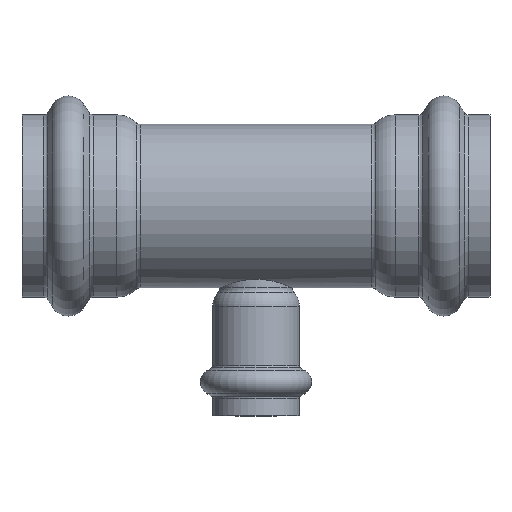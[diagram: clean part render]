
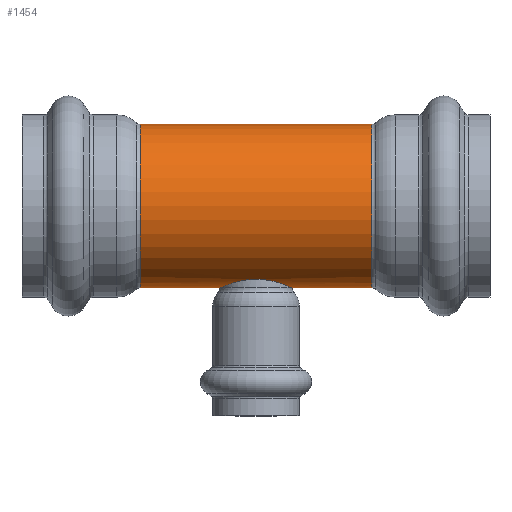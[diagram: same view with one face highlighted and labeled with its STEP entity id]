
A CAD part, top view. The second image highlights one B-rep face of the part: STEP entity #1454.
In plain terms, the highlighted cylindrical face has radius 24.13 mm (diameter 48.26 mm), a full revolution.
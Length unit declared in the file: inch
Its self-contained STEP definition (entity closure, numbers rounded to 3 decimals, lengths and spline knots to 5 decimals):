
#70=LINE('',#2739,#99);
#71=LINE('',#2740,#100);
#99=VECTOR('',#2112,0.95);
#100=VECTOR('',#2113,0.95);
#239=CIRCLE('',#1656,0.95);
#240=CIRCLE('',#1657,0.95);
#241=CIRCLE('',#1658,0.95);
#242=CIRCLE('',#1660,0.95);
#243=CIRCLE('',#1661,0.95);
#244=CIRCLE('',#1662,0.95);
#379=FACE_OUTER_BOUND('',#445,.T.);
#445=EDGE_LOOP('',(#1167,#1168,#1169,#1170,#1171,#1172,#1173,#1174,#1175,
#1176,#1177,#1178,#1179,#1180,#1181,#1182));
#468=B_SPLINE_CURVE_WITH_KNOTS('',3,(#2333,#2334,#2335,#2336,#2337,#2338,
#2339,#2340),.UNSPECIFIED.,.F.,.F.,(4,2,2,4),(0.21525,0.25618,
0.33964,0.43035),.UNSPECIFIED.);
#469=B_SPLINE_CURVE_WITH_KNOTS('',3,(#2342,#2343,#2344,#2345,#2346,#2347),
 .UNSPECIFIED.,.F.,.F.,(4,2,4),(0.,0.14258,0.21525),
 .UNSPECIFIED.);
#470=B_SPLINE_CURVE_WITH_KNOTS('',3,(#2351,#2352,#2353,#2354,#2355,#2356,
#2357,#2358),.UNSPECIFIED.,.F.,.F.,(4,2,2,4),(0.21525,0.25618,
0.33964,0.43035),.UNSPECIFIED.);
#471=B_SPLINE_CURVE_WITH_KNOTS('',3,(#2360,#2361,#2362,#2363,#2364,#2365),
 .UNSPECIFIED.,.F.,.F.,(4,2,4),(0.,0.14258,0.21525),
 .UNSPECIFIED.);
#473=B_SPLINE_CURVE_WITH_KNOTS('',3,(#2387,#2388,#2389,#2390,#2391,#2392,
#2393,#2394,#2395,#2396,#2397,#2398,#2399,#2400,#2401,#2402,#2403,#2404),
 .UNSPECIFIED.,.F.,.F.,(4,2,2,2,2,2,2,2,4),(1.84199,2.04003,
2.44778,2.85617,3.26456,3.67295,4.08134,
4.48909,4.68712),.UNSPECIFIED.);
#474=B_SPLINE_CURVE_WITH_KNOTS('',3,(#2406,#2407,#2408,#2409,#2410,#2411,
#2412,#2413,#2414,#2415,#2416,#2417,#2418,#2419,#2420,#2421,#2422,#2423,
#2424),.UNSPECIFIED.,.F.,.F.,(4,2,2,2,3,2,2,2,4),(5.10655,5.30458,
5.71233,6.12072,6.52911,6.9375,7.34589,
7.75364,7.95168),.UNSPECIFIED.);
#485=VERTEX_POINT('',#2330);
#486=VERTEX_POINT('',#2332);
#487=VERTEX_POINT('',#2341);
#488=VERTEX_POINT('',#2348);
#489=VERTEX_POINT('',#2350);
#490=VERTEX_POINT('',#2359);
#588=VERTEX_POINT('',#2726);
#589=VERTEX_POINT('',#2728);
#590=VERTEX_POINT('',#2730);
#591=VERTEX_POINT('',#2734);
#592=VERTEX_POINT('',#2735);
#593=VERTEX_POINT('',#2737);
#649=EDGE_CURVE('',#486,#485,#468,.T.);
#650=EDGE_CURVE('',#487,#486,#469,.T.);
#652=EDGE_CURVE('',#489,#488,#470,.T.);
#653=EDGE_CURVE('',#490,#489,#471,.T.);
#663=EDGE_CURVE('',#485,#490,#473,.T.);
#664=EDGE_CURVE('',#488,#487,#474,.T.);
#795=EDGE_CURVE('',#589,#588,#239,.T.);
#796=EDGE_CURVE('',#590,#589,#240,.T.);
#797=EDGE_CURVE('',#588,#590,#241,.T.);
#798=EDGE_CURVE('',#591,#592,#242,.T.);
#799=EDGE_CURVE('',#593,#591,#243,.T.);
#800=EDGE_CURVE('',#593,#486,#70,.T.);
#801=EDGE_CURVE('',#489,#590,#71,.T.);
#802=EDGE_CURVE('',#592,#593,#244,.T.);
#1167=ORIENTED_EDGE('',*,*,#798,.F.);
#1168=ORIENTED_EDGE('',*,*,#799,.F.);
#1169=ORIENTED_EDGE('',*,*,#800,.T.);
#1170=ORIENTED_EDGE('',*,*,#649,.T.);
#1171=ORIENTED_EDGE('',*,*,#663,.T.);
#1172=ORIENTED_EDGE('',*,*,#653,.T.);
#1173=ORIENTED_EDGE('',*,*,#801,.T.);
#1174=ORIENTED_EDGE('',*,*,#796,.T.);
#1175=ORIENTED_EDGE('',*,*,#795,.T.);
#1176=ORIENTED_EDGE('',*,*,#797,.T.);
#1177=ORIENTED_EDGE('',*,*,#801,.F.);
#1178=ORIENTED_EDGE('',*,*,#652,.T.);
#1179=ORIENTED_EDGE('',*,*,#664,.T.);
#1180=ORIENTED_EDGE('',*,*,#650,.T.);
#1181=ORIENTED_EDGE('',*,*,#800,.F.);
#1182=ORIENTED_EDGE('',*,*,#802,.F.);
#1339=CYLINDRICAL_SURFACE('',#1659,0.95);
#1454=ADVANCED_FACE('',(#379),#1339,.T.);
#1656=AXIS2_PLACEMENT_3D('',#2729,#2100,#2101);
#1657=AXIS2_PLACEMENT_3D('',#2731,#2102,#2103);
#1658=AXIS2_PLACEMENT_3D('',#2732,#2104,#2105);
#1659=AXIS2_PLACEMENT_3D('',#2733,#2106,#2107);
#1660=AXIS2_PLACEMENT_3D('',#2736,#2108,#2109);
#1661=AXIS2_PLACEMENT_3D('',#2738,#2110,#2111);
#1662=AXIS2_PLACEMENT_3D('',#2741,#2114,#2115);
#2100=DIRECTION('center_axis',(1.,0.,0.));
#2101=DIRECTION('ref_axis',(0.,1.,0.));
#2102=DIRECTION('center_axis',(1.,0.,0.));
#2103=DIRECTION('ref_axis',(0.,1.,0.));
#2104=DIRECTION('center_axis',(1.,0.,0.));
#2105=DIRECTION('ref_axis',(0.,1.,0.));
#2106=DIRECTION('center_axis',(1.,0.,0.));
#2107=DIRECTION('ref_axis',(0.,1.,0.));
#2108=DIRECTION('center_axis',(1.,0.,0.));
#2109=DIRECTION('ref_axis',(0.,1.,0.));
#2110=DIRECTION('center_axis',(1.,0.,0.));
#2111=DIRECTION('ref_axis',(0.,1.,0.));
#2112=DIRECTION('',(-1.,0.,0.));
#2113=DIRECTION('',(-1.,0.,0.));
#2114=DIRECTION('center_axis',(1.,0.,0.));
#2115=DIRECTION('ref_axis',(0.,1.,0.));
#2330=CARTESIAN_POINT('',(0.41152,-0.94628,-0.08395));
#2332=CARTESIAN_POINT('',(0.42007,-0.95,0.));
#2333=CARTESIAN_POINT('Ctrl Pts',(0.42007,-0.95,0.));
#2334=CARTESIAN_POINT('Ctrl Pts',(0.42007,-0.95,-0.00536));
#2335=CARTESIAN_POINT('Ctrl Pts',(0.41997,-0.94995,
-0.01073));
#2336=CARTESIAN_POINT('Ctrl Pts',(0.41933,-0.94968,
-0.02704));
#2337=CARTESIAN_POINT('Ctrl Pts',(0.41847,-0.9493,
-0.03794));
#2338=CARTESIAN_POINT('Ctrl Pts',(0.41579,-0.94814,
-0.06061));
#2339=CARTESIAN_POINT('Ctrl Pts',(0.4139,-0.94731,
-0.07233));
#2340=CARTESIAN_POINT('Ctrl Pts',(0.41152,-0.94628,
-0.08395));
#2341=CARTESIAN_POINT('',(0.41152,-0.94628,0.08395));
#2342=CARTESIAN_POINT('Ctrl Pts',(0.41152,-0.94628,
0.08395));
#2343=CARTESIAN_POINT('Ctrl Pts',(0.41525,-0.9479,
0.06568));
#2344=CARTESIAN_POINT('Ctrl Pts',(0.41779,-0.94901,
0.04721));
#2345=CARTESIAN_POINT('Ctrl Pts',(0.41974,-0.94986,
0.01904));
#2346=CARTESIAN_POINT('Ctrl Pts',(0.42007,-0.95,0.00952));
#2347=CARTESIAN_POINT('Ctrl Pts',(0.42007,-0.95,0.));
#2348=CARTESIAN_POINT('',(-0.41152,-0.94628,0.08395));
#2350=CARTESIAN_POINT('',(-0.42007,-0.95,0.));
#2351=CARTESIAN_POINT('Ctrl Pts',(-0.42007,-0.95,0.));
#2352=CARTESIAN_POINT('Ctrl Pts',(-0.42007,-0.95,0.00536));
#2353=CARTESIAN_POINT('Ctrl Pts',(-0.41997,-0.94995,
0.01073));
#2354=CARTESIAN_POINT('Ctrl Pts',(-0.41933,-0.94968,
0.02704));
#2355=CARTESIAN_POINT('Ctrl Pts',(-0.41847,-0.9493,
0.03794));
#2356=CARTESIAN_POINT('Ctrl Pts',(-0.41579,-0.94814,
0.06061));
#2357=CARTESIAN_POINT('Ctrl Pts',(-0.4139,-0.94731,
0.07233));
#2358=CARTESIAN_POINT('Ctrl Pts',(-0.41152,-0.94628,
0.08395));
#2359=CARTESIAN_POINT('',(-0.41152,-0.94628,-0.08395));
#2360=CARTESIAN_POINT('Ctrl Pts',(-0.41152,-0.94628,
-0.08395));
#2361=CARTESIAN_POINT('Ctrl Pts',(-0.41525,-0.9479,
-0.06568));
#2362=CARTESIAN_POINT('Ctrl Pts',(-0.41779,-0.94901,
-0.04721));
#2363=CARTESIAN_POINT('Ctrl Pts',(-0.41974,-0.94986,
-0.01904));
#2364=CARTESIAN_POINT('Ctrl Pts',(-0.42007,-0.95,-0.00952));
#2365=CARTESIAN_POINT('Ctrl Pts',(-0.42007,-0.95,0.));
#2387=CARTESIAN_POINT('Ctrl Pts',(0.41152,-0.94628,
-0.08395));
#2388=CARTESIAN_POINT('Ctrl Pts',(0.40612,-0.94393,
-0.11044));
#2389=CARTESIAN_POINT('Ctrl Pts',(0.39807,-0.94046,
-0.13666));
#2390=CARTESIAN_POINT('Ctrl Pts',(0.36606,-0.92721,
-0.21339));
#2391=CARTESIAN_POINT('Ctrl Pts',(0.33384,-0.91451,
-0.26013));
#2392=CARTESIAN_POINT('Ctrl Pts',(0.26007,-0.89024,
-0.3339));
#2393=CARTESIAN_POINT('Ctrl Pts',(0.21335,-0.87695,
-0.36607));
#2394=CARTESIAN_POINT('Ctrl Pts',(0.11015,-0.85771,-0.40914));
#2395=CARTESIAN_POINT('Ctrl Pts',(0.05359,-0.85212,
-0.42));
#2396=CARTESIAN_POINT('Ctrl Pts',(-0.05359,-0.85212,
-0.42));
#2397=CARTESIAN_POINT('Ctrl Pts',(-0.11015,-0.85771,
-0.40914));
#2398=CARTESIAN_POINT('Ctrl Pts',(-0.21335,-0.87695,
-0.36607));
#2399=CARTESIAN_POINT('Ctrl Pts',(-0.26007,-0.89024,
-0.3339));
#2400=CARTESIAN_POINT('Ctrl Pts',(-0.33384,-0.91451,
-0.26013));
#2401=CARTESIAN_POINT('Ctrl Pts',(-0.36606,-0.92721,
-0.21339));
#2402=CARTESIAN_POINT('Ctrl Pts',(-0.39807,-0.94046,
-0.13666));
#2403=CARTESIAN_POINT('Ctrl Pts',(-0.40612,-0.94393,
-0.11044));
#2404=CARTESIAN_POINT('Ctrl Pts',(-0.41152,-0.94628,
-0.08395));
#2406=CARTESIAN_POINT('Ctrl Pts',(-0.41152,-0.94628,
0.08395));
#2407=CARTESIAN_POINT('Ctrl Pts',(-0.40612,-0.94393,
0.11044));
#2408=CARTESIAN_POINT('Ctrl Pts',(-0.39807,-0.94046,
0.13666));
#2409=CARTESIAN_POINT('Ctrl Pts',(-0.36606,-0.92721,
0.21339));
#2410=CARTESIAN_POINT('Ctrl Pts',(-0.33384,-0.91451,
0.26013));
#2411=CARTESIAN_POINT('Ctrl Pts',(-0.26007,-0.89024,
0.3339));
#2412=CARTESIAN_POINT('Ctrl Pts',(-0.21335,-0.87695,
0.36607));
#2413=CARTESIAN_POINT('Ctrl Pts',(-0.11015,-0.85771,
0.40914));
#2414=CARTESIAN_POINT('Ctrl Pts',(-0.05359,-0.85212,
0.42));
#2415=CARTESIAN_POINT('Ctrl Pts',(0.,-0.85212,0.42));
#2416=CARTESIAN_POINT('Ctrl Pts',(0.05359,-0.85212,
0.42));
#2417=CARTESIAN_POINT('Ctrl Pts',(0.11015,-0.85771,0.40914));
#2418=CARTESIAN_POINT('Ctrl Pts',(0.21335,-0.87695,
0.36607));
#2419=CARTESIAN_POINT('Ctrl Pts',(0.26007,-0.89024,
0.3339));
#2420=CARTESIAN_POINT('Ctrl Pts',(0.33384,-0.91451,
0.26013));
#2421=CARTESIAN_POINT('Ctrl Pts',(0.36606,-0.92721,
0.21339));
#2422=CARTESIAN_POINT('Ctrl Pts',(0.39807,-0.94046,
0.13666));
#2423=CARTESIAN_POINT('Ctrl Pts',(0.40612,-0.94393,
0.11044));
#2424=CARTESIAN_POINT('Ctrl Pts',(0.41152,-0.94628,
0.08395));
#2726=CARTESIAN_POINT('',(-1.34535,0.,0.95));
#2728=CARTESIAN_POINT('',(-1.34535,0.95,0.));
#2729=CARTESIAN_POINT('Origin',(-1.34535,0.,0.));
#2730=CARTESIAN_POINT('',(-1.34535,-0.95,0.));
#2731=CARTESIAN_POINT('Origin',(-1.34535,0.,0.));
#2732=CARTESIAN_POINT('Origin',(-1.34535,0.,0.));
#2733=CARTESIAN_POINT('Origin',(0.67268,0.,0.));
#2734=CARTESIAN_POINT('',(1.34535,0.95,0.));
#2735=CARTESIAN_POINT('',(1.34535,0.,0.95));
#2736=CARTESIAN_POINT('Origin',(1.34535,0.,0.));
#2737=CARTESIAN_POINT('',(1.34535,-0.95,0.));
#2738=CARTESIAN_POINT('Origin',(1.34535,0.,0.));
#2739=CARTESIAN_POINT('',(0.67268,-0.95,0.));
#2740=CARTESIAN_POINT('',(0.67268,-0.95,0.));
#2741=CARTESIAN_POINT('Origin',(1.34535,0.,0.));
